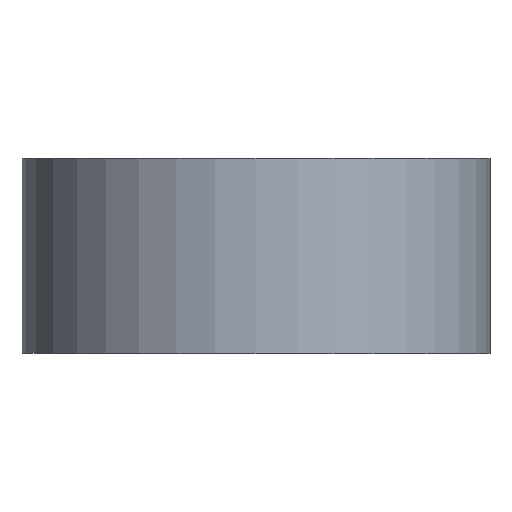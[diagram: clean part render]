
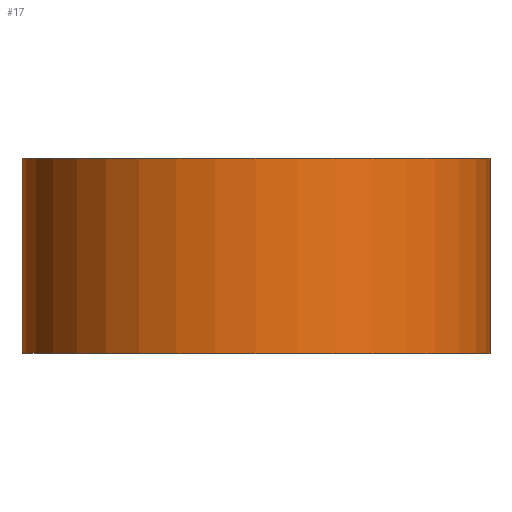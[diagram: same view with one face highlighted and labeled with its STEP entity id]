
A CAD part, front view. The second image highlights one B-rep face of the part: STEP entity #17.
In plain terms, the highlighted cylindrical face has radius 36 mm (diameter 72 mm), a full revolution.
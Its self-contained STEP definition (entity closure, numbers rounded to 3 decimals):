
#17 = ADVANCED_FACE('',(#18),#32,.T.);
#18 = FACE_BOUND('',#19,.T.);
#19 = EDGE_LOOP('',(#20,#50,#81,#82));
#20 = ORIENTED_EDGE('',*,*,#21,.T.);
#21 = EDGE_CURVE('',#22,#24,#26,.T.);
#22 = VERTEX_POINT('',#23);
#23 = CARTESIAN_POINT('',(-36.,0.,12.));
#24 = VERTEX_POINT('',#25);
#25 = CARTESIAN_POINT('',(-36.,0.,42.));
#26 = SEAM_CURVE('',#27,(#31,#43),.PCURVE_S1.);
#27 = LINE('',#28,#29);
#28 = CARTESIAN_POINT('',(-36.,0.,12.));
#29 = VECTOR('',#30,1.);
#30 = DIRECTION('',(-0.,-0.,1.));
#31 = PCURVE('',#32,#37);
#32 = CYLINDRICAL_SURFACE('',#33,36.);
#33 = AXIS2_PLACEMENT_3D('',#34,#35,#36);
#34 = CARTESIAN_POINT('',(0.,0.,12.));
#35 = DIRECTION('',(0.,-0.,-1.));
#36 = DIRECTION('',(-1.,-0.,-0.));
#37 = DEFINITIONAL_REPRESENTATION('',(#38),#42);
#38 = LINE('',#39,#40);
#39 = CARTESIAN_POINT('',(0.,0.));
#40 = VECTOR('',#41,1.);
#41 = DIRECTION('',(0.,-1.));
#42 = ( GEOMETRIC_REPRESENTATION_CONTEXT(2) 
PARAMETRIC_REPRESENTATION_CONTEXT() REPRESENTATION_CONTEXT('2D SPACE',''
  ) );
#43 = PCURVE('',#32,#44);
#44 = DEFINITIONAL_REPRESENTATION('',(#45),#49);
#45 = LINE('',#46,#47);
#46 = CARTESIAN_POINT('',(6.283,0.));
#47 = VECTOR('',#48,1.);
#48 = DIRECTION('',(0.,-1.));
#49 = ( GEOMETRIC_REPRESENTATION_CONTEXT(2) 
PARAMETRIC_REPRESENTATION_CONTEXT() REPRESENTATION_CONTEXT('2D SPACE',''
  ) );
#50 = ORIENTED_EDGE('',*,*,#51,.T.);
#51 = EDGE_CURVE('',#24,#24,#52,.T.);
#52 = SURFACE_CURVE('',#53,(#58,#65),.PCURVE_S1.);
#53 = CIRCLE('',#54,36.);
#54 = AXIS2_PLACEMENT_3D('',#55,#56,#57);
#55 = CARTESIAN_POINT('',(0.,0.,42.));
#56 = DIRECTION('',(0.,0.,-1.));
#57 = DIRECTION('',(-1.,-0.,-0.));
#58 = PCURVE('',#32,#59);
#59 = DEFINITIONAL_REPRESENTATION('',(#60),#64);
#60 = LINE('',#61,#62);
#61 = CARTESIAN_POINT('',(0.,-30.));
#62 = VECTOR('',#63,1.);
#63 = DIRECTION('',(1.,0.));
#64 = ( GEOMETRIC_REPRESENTATION_CONTEXT(2) 
PARAMETRIC_REPRESENTATION_CONTEXT() REPRESENTATION_CONTEXT('2D SPACE',''
  ) );
#65 = PCURVE('',#66,#71);
#66 = PLANE('',#67);
#67 = AXIS2_PLACEMENT_3D('',#68,#69,#70);
#68 = CARTESIAN_POINT('',(0.,0.,42.));
#69 = DIRECTION('',(-0.,-0.,1.));
#70 = DIRECTION('',(1.,0.,0.));
#71 = DEFINITIONAL_REPRESENTATION('',(#72),#80);
#72 = ( BOUNDED_CURVE() B_SPLINE_CURVE(2,(#73,#74,#75,#76,#77,#78,#79),
.UNSPECIFIED.,.T.,.F.) B_SPLINE_CURVE_WITH_KNOTS((1,2,2,2,2,1),(
    -2.094,0.,2.094,4.189,6.283,
8.378),.UNSPECIFIED.) CURVE() GEOMETRIC_REPRESENTATION_ITEM() 
RATIONAL_B_SPLINE_CURVE((1.,0.5,1.,0.5,1.,0.5,1.)) REPRESENTATION_ITEM(
  '') );
#73 = CARTESIAN_POINT('',(-36.,0.));
#74 = CARTESIAN_POINT('',(-36.,62.354));
#75 = CARTESIAN_POINT('',(18.,31.177));
#76 = CARTESIAN_POINT('',(72.,0.));
#77 = CARTESIAN_POINT('',(18.,-31.177));
#78 = CARTESIAN_POINT('',(-36.,-62.354));
#79 = CARTESIAN_POINT('',(-36.,0.));
#80 = ( GEOMETRIC_REPRESENTATION_CONTEXT(2) 
PARAMETRIC_REPRESENTATION_CONTEXT() REPRESENTATION_CONTEXT('2D SPACE',''
  ) );
#81 = ORIENTED_EDGE('',*,*,#21,.F.);
#82 = ORIENTED_EDGE('',*,*,#83,.F.);
#83 = EDGE_CURVE('',#22,#22,#84,.T.);
#84 = SURFACE_CURVE('',#85,(#90,#97),.PCURVE_S1.);
#85 = CIRCLE('',#86,36.);
#86 = AXIS2_PLACEMENT_3D('',#87,#88,#89);
#87 = CARTESIAN_POINT('',(0.,0.,12.));
#88 = DIRECTION('',(0.,0.,-1.));
#89 = DIRECTION('',(-1.,-0.,-0.));
#90 = PCURVE('',#32,#91);
#91 = DEFINITIONAL_REPRESENTATION('',(#92),#96);
#92 = LINE('',#93,#94);
#93 = CARTESIAN_POINT('',(0.,0.));
#94 = VECTOR('',#95,1.);
#95 = DIRECTION('',(1.,0.));
#96 = ( GEOMETRIC_REPRESENTATION_CONTEXT(2) 
PARAMETRIC_REPRESENTATION_CONTEXT() REPRESENTATION_CONTEXT('2D SPACE',''
  ) );
#97 = PCURVE('',#98,#103);
#98 = PLANE('',#99);
#99 = AXIS2_PLACEMENT_3D('',#100,#101,#102);
#100 = CARTESIAN_POINT('',(0.,0.,12.));
#101 = DIRECTION('',(-0.,-0.,1.));
#102 = DIRECTION('',(1.,0.,0.));
#103 = DEFINITIONAL_REPRESENTATION('',(#104),#112);
#104 = ( BOUNDED_CURVE() B_SPLINE_CURVE(2,(#105,#106,#107,#108,#109,#110
,#111),.UNSPECIFIED.,.T.,.F.) B_SPLINE_CURVE_WITH_KNOTS((1,2,2,2,2,1),(
    -2.094,0.,2.094,4.189,6.283,
8.378),.UNSPECIFIED.) CURVE() GEOMETRIC_REPRESENTATION_ITEM() 
RATIONAL_B_SPLINE_CURVE((1.,0.5,1.,0.5,1.,0.5,1.)) REPRESENTATION_ITEM(
  '') );
#105 = CARTESIAN_POINT('',(-36.,0.));
#106 = CARTESIAN_POINT('',(-36.,62.354));
#107 = CARTESIAN_POINT('',(18.,31.177));
#108 = CARTESIAN_POINT('',(72.,0.));
#109 = CARTESIAN_POINT('',(18.,-31.177));
#110 = CARTESIAN_POINT('',(-36.,-62.354));
#111 = CARTESIAN_POINT('',(-36.,0.));
#112 = ( GEOMETRIC_REPRESENTATION_CONTEXT(2) 
PARAMETRIC_REPRESENTATION_CONTEXT() REPRESENTATION_CONTEXT('2D SPACE',''
  ) );
